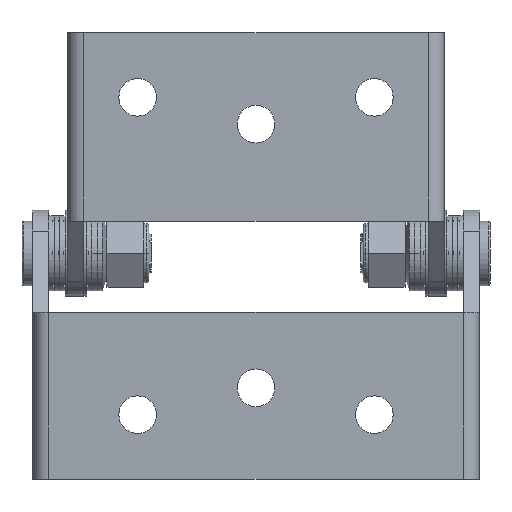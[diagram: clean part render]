
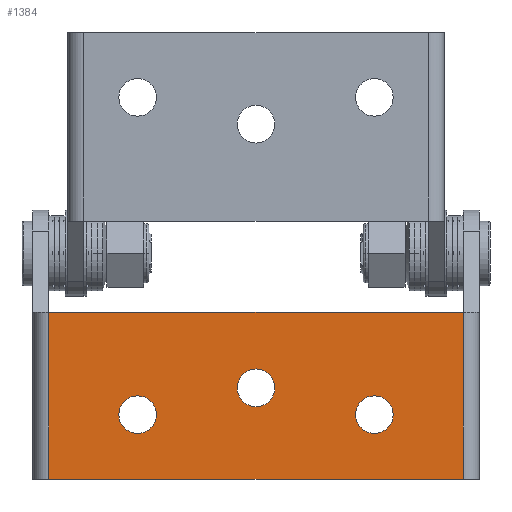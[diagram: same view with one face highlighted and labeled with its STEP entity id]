
A CAD part, front view. The second image highlights one B-rep face of the part: STEP entity #1384.
In plain terms, the highlighted planar face has unit normal (0, -1, 0).
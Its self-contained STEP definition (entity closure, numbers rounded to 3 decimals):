
#927=CARTESIAN_POINT('',(-22.,0.,3.5));
#928=DIRECTION('',(0.,-1.,0.));
#929=DIRECTION('',(1.,0.,0.));
#930=AXIS2_PLACEMENT_3D('',#927,#928,#929);
#932=CARTESIAN_POINT('',(-22.,0.,3.5));
#933=DIRECTION('',(0.,-1.,0.));
#934=DIRECTION('',(-1.,0.,0.));
#935=AXIS2_PLACEMENT_3D('',#932,#933,#934);
#937=CARTESIAN_POINT('',(22.,0.,3.5));
#938=DIRECTION('',(0.,-1.,0.));
#939=DIRECTION('',(1.,0.,0.));
#940=AXIS2_PLACEMENT_3D('',#937,#938,#939);
#942=CARTESIAN_POINT('',(22.,0.,3.5));
#943=DIRECTION('',(0.,-1.,0.));
#944=DIRECTION('',(-1.,0.,0.));
#945=AXIS2_PLACEMENT_3D('',#942,#943,#944);
#947=CARTESIAN_POINT('',(0.,0.,-1.5));
#948=DIRECTION('',(0.,-1.,0.));
#949=DIRECTION('',(1.,0.,0.));
#950=AXIS2_PLACEMENT_3D('',#947,#948,#949);
#952=CARTESIAN_POINT('',(0.,0.,-1.5));
#953=DIRECTION('',(0.,-1.,0.));
#954=DIRECTION('',(-1.,0.,0.));
#955=AXIS2_PLACEMENT_3D('',#952,#953,#954);
#957=DIRECTION('',(0.,0.,1.));
#958=VECTOR('',#957,31.);
#959=CARTESIAN_POINT('',(38.5,0.,-15.5));
#960=LINE('',#959,#958);
#961=DIRECTION('',(-1.,0.,0.));
#962=VECTOR('',#961,77.);
#963=CARTESIAN_POINT('',(38.5,0.,-15.5));
#964=LINE('',#963,#962);
#965=DIRECTION('',(0.,0.,-1.));
#966=VECTOR('',#965,31.);
#967=CARTESIAN_POINT('',(-38.5,0.,15.5));
#968=LINE('',#967,#966);
#969=DIRECTION('',(1.,0.,0.));
#970=VECTOR('',#969,77.);
#971=CARTESIAN_POINT('',(-38.5,0.,15.5));
#972=LINE('',#971,#970);
#1255=CARTESIAN_POINT('',(-18.5,0.,3.5));
#1256=CARTESIAN_POINT('',(-25.5,0.,3.5));
#1257=VERTEX_POINT('',#1255);
#1258=VERTEX_POINT('',#1256);
#1259=CARTESIAN_POINT('',(25.5,0.,3.5));
#1260=CARTESIAN_POINT('',(18.5,0.,3.5));
#1261=VERTEX_POINT('',#1259);
#1262=VERTEX_POINT('',#1260);
#1311=CARTESIAN_POINT('',(38.5,0.,15.5));
#1313=VERTEX_POINT('',#1311);
#1317=CARTESIAN_POINT('',(38.5,0.,-15.5));
#1318=VERTEX_POINT('',#1317);
#1319=CARTESIAN_POINT('',(-38.5,0.,-15.5));
#1321=VERTEX_POINT('',#1319);
#1325=CARTESIAN_POINT('',(-38.5,0.,15.5));
#1326=VERTEX_POINT('',#1325);
#1343=CARTESIAN_POINT('',(3.5,0.,-1.5));
#1344=CARTESIAN_POINT('',(-3.5,0.,-1.5));
#1345=VERTEX_POINT('',#1343);
#1346=VERTEX_POINT('',#1344);
#1351=CARTESIAN_POINT('',(0.,0.,0.));
#1352=DIRECTION('',(0.,1.,0.));
#1353=DIRECTION('',(1.,0.,0.));
#1354=AXIS2_PLACEMENT_3D('',#1351,#1352,#1353);
#1355=PLANE('',#1354);
#1357=ORIENTED_EDGE('',*,*,#1356,.F.);
#1359=ORIENTED_EDGE('',*,*,#1358,.T.);
#1361=ORIENTED_EDGE('',*,*,#1360,.F.);
#1363=ORIENTED_EDGE('',*,*,#1362,.T.);
#1364=EDGE_LOOP('',(#1357,#1359,#1361,#1363));
#1365=FACE_OUTER_BOUND('',#1364,.F.);
#1367=ORIENTED_EDGE('',*,*,#1366,.T.);
#1369=ORIENTED_EDGE('',*,*,#1368,.T.);
#1370=EDGE_LOOP('',(#1367,#1369));
#1371=FACE_BOUND('',#1370,.F.);
#1373=ORIENTED_EDGE('',*,*,#1372,.T.);
#1375=ORIENTED_EDGE('',*,*,#1374,.T.);
#1376=EDGE_LOOP('',(#1373,#1375));
#1377=FACE_BOUND('',#1376,.F.);
#1379=ORIENTED_EDGE('',*,*,#1378,.T.);
#1381=ORIENTED_EDGE('',*,*,#1380,.T.);
#1382=EDGE_LOOP('',(#1379,#1381));
#1383=FACE_BOUND('',#1382,.F.);
#1384=ADVANCED_FACE('',(#1365,#1371,#1377,#1383),#1355,.F.);
#931=CIRCLE('',#930,3.5);
#936=CIRCLE('',#935,3.5);
#941=CIRCLE('',#940,3.5);
#946=CIRCLE('',#945,3.5);
#951=CIRCLE('',#950,3.5);
#956=CIRCLE('',#955,3.5);
#1356=EDGE_CURVE('',#1318,#1313,#960,.T.);
#1358=EDGE_CURVE('',#1318,#1321,#964,.T.);
#1360=EDGE_CURVE('',#1326,#1321,#968,.T.);
#1362=EDGE_CURVE('',#1326,#1313,#972,.T.);
#1366=EDGE_CURVE('',#1261,#1262,#941,.T.);
#1368=EDGE_CURVE('',#1262,#1261,#946,.T.);
#1372=EDGE_CURVE('',#1345,#1346,#951,.T.);
#1374=EDGE_CURVE('',#1346,#1345,#956,.T.);
#1378=EDGE_CURVE('',#1257,#1258,#931,.T.);
#1380=EDGE_CURVE('',#1258,#1257,#936,.T.);
